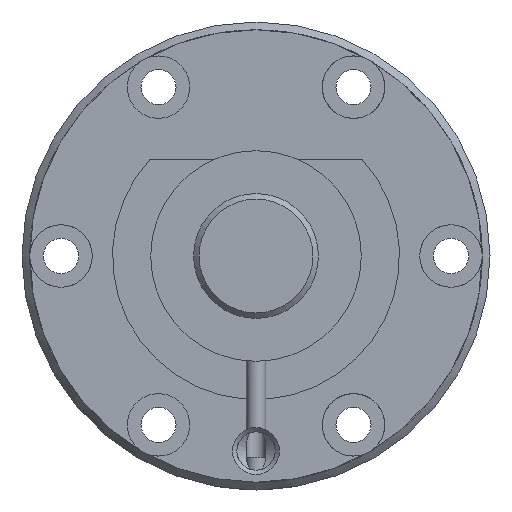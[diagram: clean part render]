
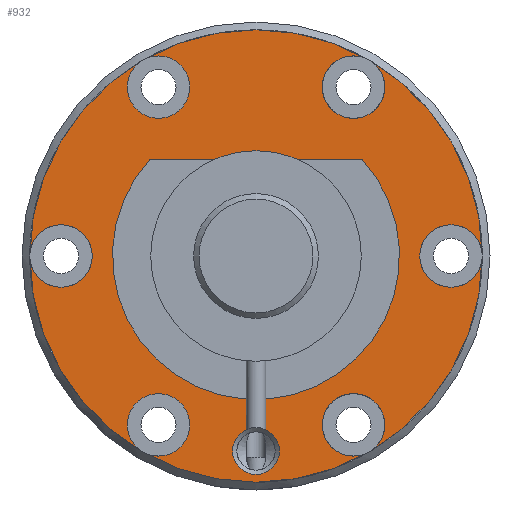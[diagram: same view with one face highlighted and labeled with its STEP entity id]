
A CAD part, left-side view. The second image highlights one B-rep face of the part: STEP entity #932.
In plain terms, the highlighted planar face has unit normal (1, 0, 0).
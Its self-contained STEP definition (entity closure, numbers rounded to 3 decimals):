
#22=LINE('',#1604,#46);
#46=VECTOR('',#1252,1000.);
#175=ORIENTED_EDGE('',*,*,#381,.T.);
#176=ORIENTED_EDGE('',*,*,#382,.T.);
#177=ORIENTED_EDGE('',*,*,#383,.F.);
#178=ORIENTED_EDGE('',*,*,#384,.F.);
#179=ORIENTED_EDGE('',*,*,#385,.F.);
#180=ORIENTED_EDGE('',*,*,#386,.F.);
#181=ORIENTED_EDGE('',*,*,#387,.F.);
#182=ORIENTED_EDGE('',*,*,#388,.F.);
#183=ORIENTED_EDGE('',*,*,#389,.F.);
#381=EDGE_CURVE('',#485,#485,#574,.F.);
#382=EDGE_CURVE('',#486,#486,#575,.T.);
#383=EDGE_CURVE('',#487,#488,#576,.T.);
#384=EDGE_CURVE('',#488,#487,#22,.T.);
#385=EDGE_CURVE('',#489,#489,#577,.T.);
#386=EDGE_CURVE('',#490,#490,#578,.T.);
#387=EDGE_CURVE('',#491,#491,#579,.T.);
#388=EDGE_CURVE('',#492,#492,#580,.T.);
#389=EDGE_CURVE('',#493,#493,#581,.T.);
#485=VERTEX_POINT('',#1598);
#486=VERTEX_POINT('',#1600);
#487=VERTEX_POINT('',#1602);
#488=VERTEX_POINT('',#1603);
#489=VERTEX_POINT('',#1606);
#490=VERTEX_POINT('',#1608);
#491=VERTEX_POINT('',#1610);
#492=VERTEX_POINT('',#1612);
#493=VERTEX_POINT('',#1614);
#574=CIRCLE('',#1055,2.25);
#575=CIRCLE('',#1056,29.);
#576=CIRCLE('',#1057,18.4);
#577=CIRCLE('',#1058,2.25);
#578=CIRCLE('',#1059,2.25);
#579=CIRCLE('',#1060,2.25);
#580=CIRCLE('',#1061,2.25);
#581=CIRCLE('',#1062,2.25);
#650=EDGE_LOOP('',(#175));
#651=EDGE_LOOP('',(#176));
#652=EDGE_LOOP('',(#177,#178));
#653=EDGE_LOOP('',(#179));
#654=EDGE_LOOP('',(#180));
#655=EDGE_LOOP('',(#181));
#656=EDGE_LOOP('',(#182));
#657=EDGE_LOOP('',(#183));
#784=FACE_BOUND('',#650,.T.);
#785=FACE_BOUND('',#651,.T.);
#786=FACE_BOUND('',#652,.T.);
#787=FACE_BOUND('',#653,.T.);
#788=FACE_BOUND('',#654,.T.);
#789=FACE_BOUND('',#655,.T.);
#790=FACE_BOUND('',#656,.T.);
#791=FACE_BOUND('',#657,.T.);
#896=PLANE('',#1054);
#932=ADVANCED_FACE('',(#784,#785,#786,#787,#788,#789,#790,#791),#896,.T.);
#1054=AXIS2_PLACEMENT_3D('',#1596,#1244,#1245);
#1055=AXIS2_PLACEMENT_3D('',#1597,#1246,#1247);
#1056=AXIS2_PLACEMENT_3D('',#1599,#1248,#1249);
#1057=AXIS2_PLACEMENT_3D('',#1601,#1250,#1251);
#1058=AXIS2_PLACEMENT_3D('',#1605,#1253,#1254);
#1059=AXIS2_PLACEMENT_3D('',#1607,#1255,#1256);
#1060=AXIS2_PLACEMENT_3D('',#1609,#1257,#1258);
#1061=AXIS2_PLACEMENT_3D('',#1611,#1259,#1260);
#1062=AXIS2_PLACEMENT_3D('',#1613,#1261,#1262);
#1244=DIRECTION('',(1.,0.,0.));
#1245=DIRECTION('',(0.,0.,-1.));
#1246=DIRECTION('',(1.,0.,0.));
#1247=DIRECTION('',(0.,0.,-1.));
#1248=DIRECTION('',(1.,0.,0.));
#1249=DIRECTION('',(0.,0.,-1.));
#1250=DIRECTION('',(1.,0.,0.));
#1251=DIRECTION('',(0.,0.,-1.));
#1252=DIRECTION('',(0.,-1.,0.));
#1253=DIRECTION('',(1.,0.,0.));
#1254=DIRECTION('',(0.,0.,-1.));
#1255=DIRECTION('',(1.,0.,0.));
#1256=DIRECTION('',(0.,0.,-1.));
#1257=DIRECTION('',(1.,0.,0.));
#1258=DIRECTION('',(0.,0.,-1.));
#1259=DIRECTION('',(1.,0.,0.));
#1260=DIRECTION('',(0.,0.,-1.));
#1261=DIRECTION('',(1.,0.,0.));
#1262=DIRECTION('',(0.,0.,-1.));
#1596=CARTESIAN_POINT('',(10.,13.5,0.));
#1597=CARTESIAN_POINT('',(10.,25.,0.));
#1598=CARTESIAN_POINT('',(10.,25.,-2.25));
#1599=CARTESIAN_POINT('',(10.,0.,0.));
#1600=CARTESIAN_POINT('',(10.,0.,-29.));
#1601=CARTESIAN_POINT('',(10.,0.,0.));
#1602=CARTESIAN_POINT('',(10.,-13.594,12.4));
#1603=CARTESIAN_POINT('',(10.,13.594,12.4));
#1604=CARTESIAN_POINT('',(10.,24.,12.4));
#1605=CARTESIAN_POINT('',(10.,12.5,-21.651));
#1606=CARTESIAN_POINT('',(10.,12.5,-23.901));
#1607=CARTESIAN_POINT('',(10.,-12.5,-21.651));
#1608=CARTESIAN_POINT('',(10.,-12.5,-23.901));
#1609=CARTESIAN_POINT('',(10.,-25.,0.));
#1610=CARTESIAN_POINT('',(10.,-25.,-2.25));
#1611=CARTESIAN_POINT('',(10.,-12.5,21.651));
#1612=CARTESIAN_POINT('',(10.,-12.5,19.401));
#1613=CARTESIAN_POINT('',(10.,12.5,21.651));
#1614=CARTESIAN_POINT('',(10.,12.5,19.401));
